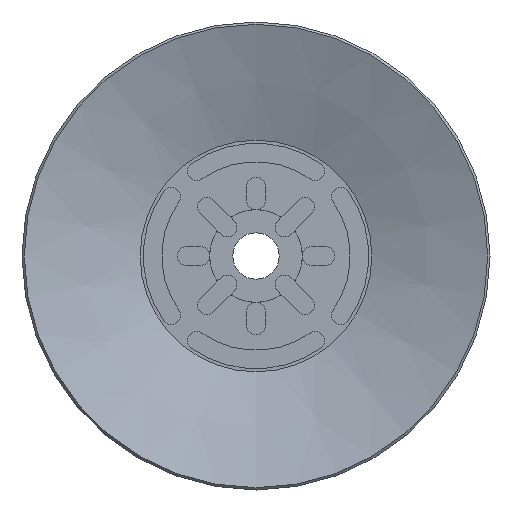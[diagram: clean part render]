
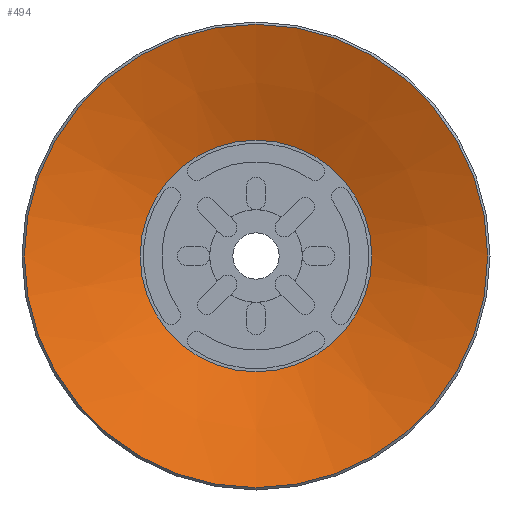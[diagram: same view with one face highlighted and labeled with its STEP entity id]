
A CAD part, front view. The second image highlights one B-rep face of the part: STEP entity #494.
In plain terms, the highlighted conical face has half-angle 70.201 degrees and reference radius 7.5 mm.
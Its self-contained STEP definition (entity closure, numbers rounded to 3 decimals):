
#494=ADVANCED_FACE('',(#789,#790),#791,.F.);
#789=FACE_BOUND('',#1173,.T.);
#790=FACE_OUTER_BOUND('',#1174,.T.);
#791=CONICAL_SURFACE('',#1175,7.5,1.225);
#1173=EDGE_LOOP('',(#2022));
#1174=EDGE_LOOP('',(#2023));
#1175=AXIS2_PLACEMENT_3D('',#2024,#2025,#2026);
#2022=ORIENTED_EDGE('',*,*,#2815,.F.);
#2023=ORIENTED_EDGE('',*,*,#2816,.T.);
#2024=CARTESIAN_POINT('',(0.0,0.0,2.7));
#2025=DIRECTION('',(0.0,0.,-1.0));
#2026=DIRECTION('',(0.0,1.0,0.));
#2815=EDGE_CURVE('',#3344,#3344,#3345,.T.);
#2816=EDGE_CURVE('',#3346,#3346,#3347,.T.);
#3344=VERTEX_POINT('',#4401);
#3345=CIRCLE('',#4402,7.5);
#3346=VERTEX_POINT('',#4403);
#3347=CIRCLE('',#4404,15.0);
#4401=CARTESIAN_POINT('',(0.0,7.5,2.7));
#4402=AXIS2_PLACEMENT_3D('',#5087,#5088,#5089);
#4403=CARTESIAN_POINT('',(0.0,15.0,0.));
#4404=AXIS2_PLACEMENT_3D('',#5090,#5091,#5092);
#5087=CARTESIAN_POINT('',(0.0,0.0,2.7));
#5088=DIRECTION('',(0.0,0.,-1.0));
#5089=DIRECTION('',(0.0,1.0,0.));
#5090=CARTESIAN_POINT('',(0.0,0.0,0.0));
#5091=DIRECTION('',(0.0,0.,-1.0));
#5092=DIRECTION('',(0.0,1.0,0.));
